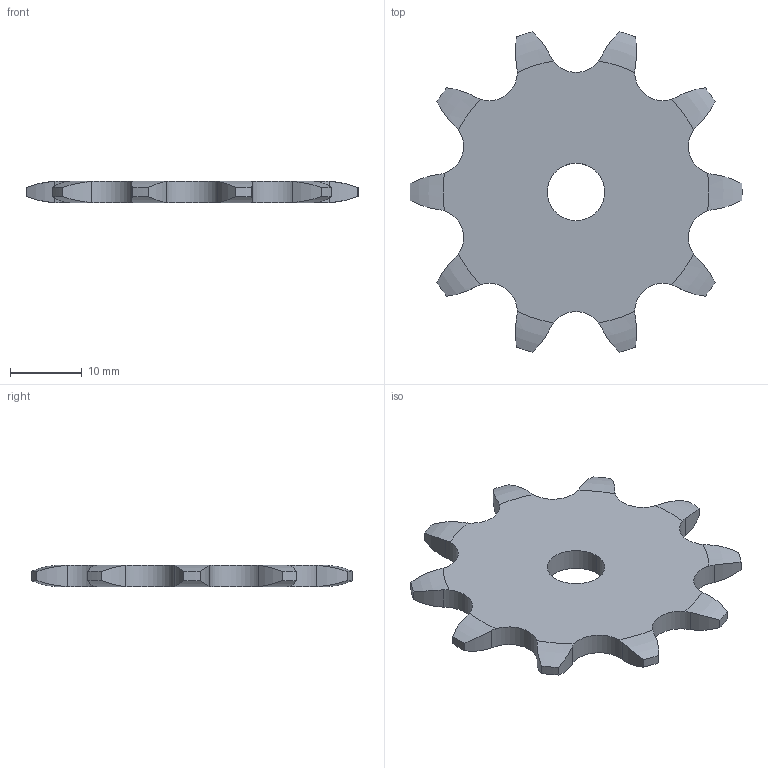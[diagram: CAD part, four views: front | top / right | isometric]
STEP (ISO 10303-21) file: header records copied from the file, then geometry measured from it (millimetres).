
FILE_DESCRIPTION((''),'2;1');
FILE_NAME('500-201-0010_PRT','2021-02-12T',('Brieden'),('Brieden'),'PRO/ENGINEER BY PARAMETRIC TECHNOLOGY CORPORATION, 2010160','PRO/ENGINEER BY PARAMETRIC TECHNOLOGY CORPORATION, 2010160','');
FILE_SCHEMA(('AUTOMOTIVE_DESIGN { 1 0 10303 214 1 1 1 1 }'));
Length unit declared in the file: millimetre
Products named in the file (1): 500-201-0010_PRT
Bounding box: 46.19 x 44.61 x 3 mm (x, y, z)
Volume: 3309.2 mm3; surface area: 2839.4 mm2
Topology: 1 solids, 1 shells, 64 faces, 186 edges, 124 vertices
Faces by surface type: cylinder 42, torus 20, plane 2
Entity records: 3008 total; most frequent: CARTESIAN_POINT 779, ORIENTED_EDGE 372, DIRECTION 298, PRESENTATION_STYLE_ASSIGNMENT 187, STYLED_ITEM 187, CURVE_STYLE 186, EDGE_CURVE 186, AXIS2_PLACEMENT_3D 128
